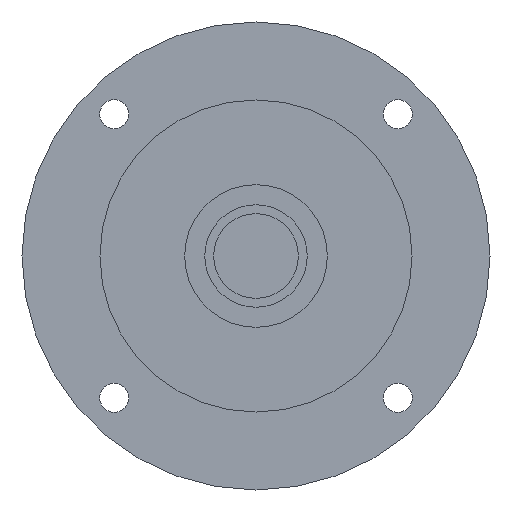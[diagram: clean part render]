
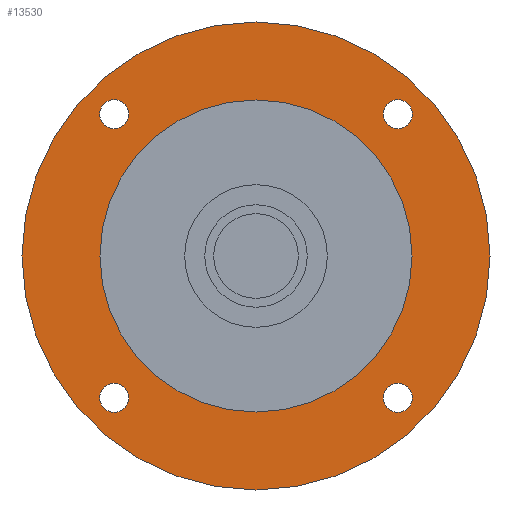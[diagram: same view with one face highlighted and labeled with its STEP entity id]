
A CAD part, left-side view. The second image highlights one B-rep face of the part: STEP entity #13530.
In plain terms, the highlighted planar face has unit normal (-1, 0, 0) as drawn and (0, 0, -1) by its records, which use the part's own axes.
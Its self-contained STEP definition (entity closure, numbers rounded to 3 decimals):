
#12370=CARTESIAN_POINT('',(-31.82,-28.57,-42.2));
#12380=VERTEX_POINT('',#12370);
#12410=CARTESIAN_POINT('',(-31.82,-31.82,-42.2));
#12420=DIRECTION('',(0.,0.,-1.));
#12430=DIRECTION('',(0.,-1.,0.));
#12440=AXIS2_PLACEMENT_3D('',#12410,#12420,#12430);
#12450=CIRCLE('',#12440,3.25);
#12460=CARTESIAN_POINT('',(-31.82,-35.07,-42.2));
#12470=VERTEX_POINT('',#12460);
#12480=EDGE_CURVE('',#12470,#12380,#12450,.T.);
#12600=CARTESIAN_POINT('',(0.,0.,
-42.2));
#12610=DIRECTION('',(0.,0.,-1.));
#12620=DIRECTION('',(1.,0.,0.));
#12630=AXIS2_PLACEMENT_3D('',#12600,#12610,#12620);
#12640=PLANE('',#12630);
#12650=CARTESIAN_POINT('',(31.82,-31.82,-42.2));
#12660=DIRECTION('',(0.,0.,-1.));
#12670=DIRECTION('',(1.,0.,0.));
#12680=AXIS2_PLACEMENT_3D('',#12650,#12660,#12670);
#12690=CIRCLE('',#12680,3.25);
#12700=CARTESIAN_POINT('',(35.07,-31.82,-42.2));
#12710=VERTEX_POINT('',#12700);
#12720=CARTESIAN_POINT('',(28.57,-31.82,-42.2));
#12730=VERTEX_POINT('',#12720);
#12740=EDGE_CURVE('',#12710,#12730,#12690,.T.);
#12750=ORIENTED_EDGE('',*,*,#12740,.F.);
#12760=EDGE_CURVE('',#12730,#12710,#12690,.T.);
#12770=ORIENTED_EDGE('',*,*,#12760,.F.);
#12780=EDGE_LOOP('',(#12770,#12750));
#12790=FACE_BOUND('',#12780,.T.);
#12800=CARTESIAN_POINT('',(0.,0.,
-42.2));
#12810=DIRECTION('',(0.,0.,-1.));
#12820=DIRECTION('',(0.,-1.,0.));
#12830=AXIS2_PLACEMENT_3D('',#12800,#12810,#12820);
#12840=CIRCLE('',#12830,52.5);
#12850=CARTESIAN_POINT('',(-52.5,0.,-42.2));
#12860=VERTEX_POINT('',#12850);
#12870=CARTESIAN_POINT('',(52.5,0.,-42.2));
#12880=VERTEX_POINT('',#12870);
#12890=EDGE_CURVE('',#12860,#12880,#12840,.T.);
#12900=ORIENTED_EDGE('',*,*,#12890,.T.);
#12910=CARTESIAN_POINT('',(0.,-52.5,-42.2));
#12920=VERTEX_POINT('',#12910);
#12930=EDGE_CURVE('',#12920,#12860,#12840,.T.);
#12940=ORIENTED_EDGE('',*,*,#12930,.T.);
#12950=EDGE_CURVE('',#12880,#12920,#12840,.T.);
#12960=ORIENTED_EDGE('',*,*,#12950,.T.);
#12970=EDGE_LOOP('',(#12960,#12940,#12900));
#12980=FACE_OUTER_BOUND('',#12970,.T.);
#12990=CARTESIAN_POINT('',(31.82,31.82,-42.2));
#13000=DIRECTION('',(0.,0.,-1.));
#13010=DIRECTION('',(0.,1.,0.));
#13020=AXIS2_PLACEMENT_3D('',#12990,#13000,#13010);
#13030=CIRCLE('',#13020,3.25);
#13040=CARTESIAN_POINT('',(31.82,35.07,-42.2));
#13050=VERTEX_POINT('',#13040);
#13060=CARTESIAN_POINT('',(31.82,28.57,-42.2));
#13070=VERTEX_POINT('',#13060);
#13080=EDGE_CURVE('',#13050,#13070,#13030,.T.);
#13090=ORIENTED_EDGE('',*,*,#13080,.F.);
#13100=EDGE_CURVE('',#13070,#13050,#13030,.T.);
#13110=ORIENTED_EDGE('',*,*,#13100,.F.);
#13120=EDGE_LOOP('',(#13110,#13090));
#13130=FACE_BOUND('',#13120,.T.);
#13140=CARTESIAN_POINT('',(-31.82,31.82,-42.2));
#13150=DIRECTION('',(0.,0.,-1.));
#13160=DIRECTION('',(-1.,0.,0.));
#13170=AXIS2_PLACEMENT_3D('',#13140,#13150,#13160);
#13180=CIRCLE('',#13170,3.25);
#13190=CARTESIAN_POINT('',(-35.07,31.82,-42.2));
#13200=VERTEX_POINT('',#13190);
#13210=CARTESIAN_POINT('',(-28.57,31.82,-42.2));
#13220=VERTEX_POINT('',#13210);
#13230=EDGE_CURVE('',#13200,#13220,#13180,.T.);
#13240=ORIENTED_EDGE('',*,*,#13230,.F.);
#13250=EDGE_CURVE('',#13220,#13200,#13180,.T.);
#13260=ORIENTED_EDGE('',*,*,#13250,.F.);
#13270=EDGE_LOOP('',(#13260,#13240));
#13280=FACE_BOUND('',#13270,.T.);
#13290=ORIENTED_EDGE('',*,*,#12480,.F.);
#13300=EDGE_CURVE('',#12380,#12470,#12450,.T.);
#13310=ORIENTED_EDGE('',*,*,#13300,.F.);
#13320=EDGE_LOOP('',(#13310,#13290));
#13330=FACE_BOUND('',#13320,.T.);
#13340=CARTESIAN_POINT('',(0.,0.,
-42.2));
#13350=DIRECTION('',(0.,0.,1.));
#13360=DIRECTION('',(0.,1.,0.));
#13370=AXIS2_PLACEMENT_3D('',#13340,#13350,#13360);
#13380=CIRCLE('',#13370,35.);
#13390=CARTESIAN_POINT('',(-35.,0.,-42.2));
#13400=VERTEX_POINT('',#13390);
#13410=CARTESIAN_POINT('',(35.,0.,-42.2));
#13420=VERTEX_POINT('',#13410);
#13430=EDGE_CURVE('',#13400,#13420,#13380,.T.);
#13440=ORIENTED_EDGE('',*,*,#13430,.T.);
#13450=CARTESIAN_POINT('',(0.,35.,-42.2));
#13460=VERTEX_POINT('',#13450);
#13470=EDGE_CURVE('',#13460,#13400,#13380,.T.);
#13480=ORIENTED_EDGE('',*,*,#13470,.T.);
#13490=EDGE_CURVE('',#13420,#13460,#13380,.T.);
#13500=ORIENTED_EDGE('',*,*,#13490,.T.);
#13510=EDGE_LOOP('',(#13500,#13480,#13440));
#13520=FACE_BOUND('',#13510,.T.);
#13530=ADVANCED_FACE('',(#12790,#12980,#13130,#13280,#13330,#13520),
#12640,.T.);
